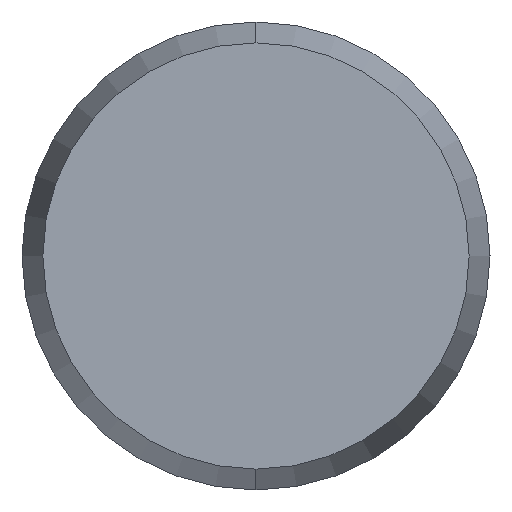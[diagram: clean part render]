
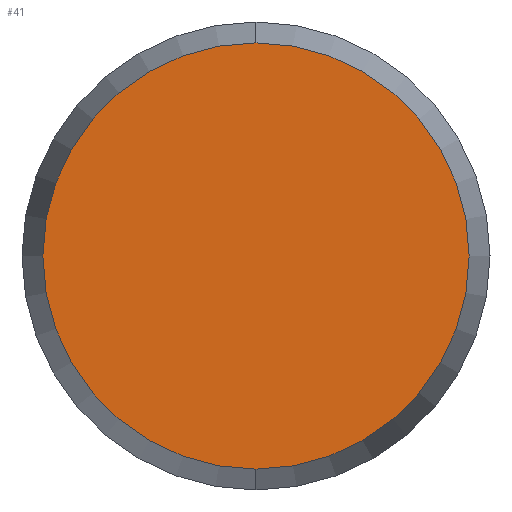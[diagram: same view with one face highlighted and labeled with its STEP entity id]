
A CAD part, left-side view. The second image highlights one B-rep face of the part: STEP entity #41.
In plain terms, the highlighted planar face has unit normal (-1, 0, 0).
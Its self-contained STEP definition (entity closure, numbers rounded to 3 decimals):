
#4 = ORIENTED_EDGE ( 'NONE', *, *, #43, .F. ) ;
#7 = EDGE_CURVE ( 'NONE', #9, #10, #80, .T. ) ;
#9 = VERTEX_POINT ( 'NONE', #110 ) ;
#10 = VERTEX_POINT ( 'NONE', #87 ) ;
#40 = EDGE_LOOP ( 'NONE', ( #42, #4 ) ) ;
#41 = ADVANCED_FACE ( 'NONE', ( #143 ), #139, .F. ) ;
#42 = ORIENTED_EDGE ( 'NONE', *, *, #7, .F. ) ;
#43 = EDGE_CURVE ( 'NONE', #10, #9, #137, .T. ) ;
#68 = DIRECTION ( 'NONE',  ( 0., 0., -1. ) ) ;
#70 = DIRECTION ( 'NONE',  ( 1., 0., 0. ) ) ;
#73 = CARTESIAN_POINT ( 'NONE',  ( -40., 0., 0. ) ) ;
#79 = AXIS2_PLACEMENT_3D ( 'NONE', #73, #70, #68 ) ;
#80 = CIRCLE ( 'NONE', #79, 2.732 ) ;
#87 = CARTESIAN_POINT ( 'NONE',  ( -40., 0., -2.732 ) ) ;
#110 = CARTESIAN_POINT ( 'NONE',  ( -40., 0., 2.732 ) ) ;
#130 = DIRECTION ( 'NONE',  ( 0., 0., -1. ) ) ;
#131 = DIRECTION ( 'NONE',  ( 1., 0., 0. ) ) ;
#132 = CARTESIAN_POINT ( 'NONE',  ( -40., 0., 0. ) ) ;
#133 = AXIS2_PLACEMENT_3D ( 'NONE', #132, #131, #130 ) ;
#134 = DIRECTION ( 'NONE',  ( 0., 0., -1. ) ) ;
#135 = DIRECTION ( 'NONE',  ( 1., 0., 0. ) ) ;
#136 = CARTESIAN_POINT ( 'NONE',  ( -40., 0., 0. ) ) ;
#137 = CIRCLE ( 'NONE', #133, 2.732 ) ;
#138 = AXIS2_PLACEMENT_3D ( 'NONE', #136, #135, #134 ) ;
#139 = PLANE ( 'NONE',  #138 ) ;
#143 = FACE_OUTER_BOUND ( 'NONE', #40, .T. ) ;
